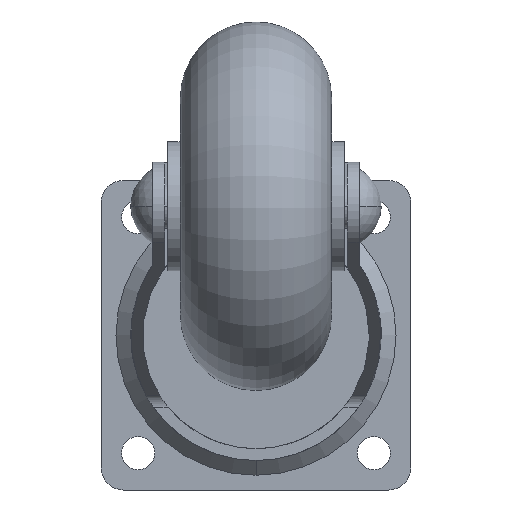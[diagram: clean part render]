
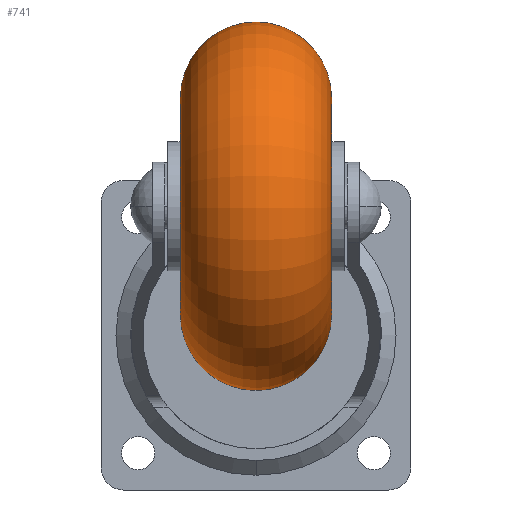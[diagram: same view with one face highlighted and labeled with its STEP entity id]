
A CAD part, front view. The second image highlights one B-rep face of the part: STEP entity #741.
In plain terms, the highlighted toroidal (fillet/blend) face has major radius 14.75 mm and minor radius 10.25 mm.
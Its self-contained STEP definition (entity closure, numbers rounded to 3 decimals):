
#106 = EDGE_LOOP ( 'NONE', ( #1103, #1375, #831, #1714 ) ) ;
#214 = CIRCLE ( 'NONE', #2594, 10.25 ) ;
#312 = AXIS2_PLACEMENT_3D ( 'NONE', #1933, #313, #532 ) ;
#313 = DIRECTION ( 'NONE',  ( 0., -1., 0. ) ) ;
#360 = FACE_OUTER_BOUND ( 'NONE', #106, .T. ) ;
#474 = VERTEX_POINT ( 'NONE', #2013 ) ;
#501 = DIRECTION ( 'NONE',  ( 0., 1., 0. ) ) ;
#532 = DIRECTION ( 'NONE',  ( 0., 0., -1. ) ) ;
#588 = DIRECTION ( 'NONE',  ( -1., 0., 0. ) ) ;
#601 = CARTESIAN_POINT ( 'NONE',  ( 0., 0., 0. ) ) ;
#693 = CARTESIAN_POINT ( 'NONE',  ( 0., 0., -14.75 ) ) ;
#741 = ADVANCED_FACE ( 'NONE', ( #360 ), #1768, .T. ) ;
#745 = CIRCLE ( 'NONE', #2171, 14.75 ) ;
#808 = AXIS2_PLACEMENT_3D ( 'NONE', #601, #588, #2561 ) ;
#831 = ORIENTED_EDGE ( 'NONE', *, *, #2639, .T. ) ;
#883 = CARTESIAN_POINT ( 'NONE',  ( -10.25, 0., 14.75 ) ) ;
#922 = EDGE_CURVE ( 'NONE', #1368, #474, #745, .T. ) ;
#1103 = ORIENTED_EDGE ( 'NONE', *, *, #2606, .F. ) ;
#1129 = CARTESIAN_POINT ( 'NONE',  ( 10.25, 0., 0. ) ) ;
#1141 = DIRECTION ( 'NONE',  ( -1., 0., 0. ) ) ;
#1216 = CARTESIAN_POINT ( 'NONE',  ( -10.25, 0., 0. ) ) ;
#1233 = VERTEX_POINT ( 'NONE', #1689 ) ;
#1282 = VERTEX_POINT ( 'NONE', #883 ) ;
#1368 = VERTEX_POINT ( 'NONE', #1662 ) ;
#1375 = ORIENTED_EDGE ( 'NONE', *, *, #922, .T. ) ;
#1414 = EDGE_CURVE ( 'NONE', #1233, #1282, #2240, .T. ) ;
#1653 = CIRCLE ( 'NONE', #312, 10.25 ) ;
#1662 = CARTESIAN_POINT ( 'NONE',  ( 10.25, 0., -14.75 ) ) ;
#1689 = CARTESIAN_POINT ( 'NONE',  ( -10.25, 0., -14.75 ) ) ;
#1714 = ORIENTED_EDGE ( 'NONE', *, *, #1414, .F. ) ;
#1768 = TOROIDAL_SURFACE ( 'NONE', #808, 14.75, 10.25 ) ;
#1904 = AXIS2_PLACEMENT_3D ( 'NONE', #1216, #2027, #2228 ) ;
#1933 = CARTESIAN_POINT ( 'NONE',  ( 0., 0., 14.75 ) ) ;
#1934 = DIRECTION ( 'NONE',  ( 0., 0., 1. ) ) ;
#2013 = CARTESIAN_POINT ( 'NONE',  ( 10.25, 0., 14.75 ) ) ;
#2027 = DIRECTION ( 'NONE',  ( -1., 0., 0. ) ) ;
#2171 = AXIS2_PLACEMENT_3D ( 'NONE', #1129, #1141, #1934 ) ;
#2228 = DIRECTION ( 'NONE',  ( 0., 0., 1. ) ) ;
#2240 = CIRCLE ( 'NONE', #1904, 14.75 ) ;
#2551 = DIRECTION ( 'NONE',  ( 0., 0., 1. ) ) ;
#2561 = DIRECTION ( 'NONE',  ( 0., 0., 1. ) ) ;
#2594 = AXIS2_PLACEMENT_3D ( 'NONE', #693, #501, #2551 ) ;
#2606 = EDGE_CURVE ( 'NONE', #1368, #1233, #214, .T. ) ;
#2639 = EDGE_CURVE ( 'NONE', #474, #1282, #1653, .T. ) ;
